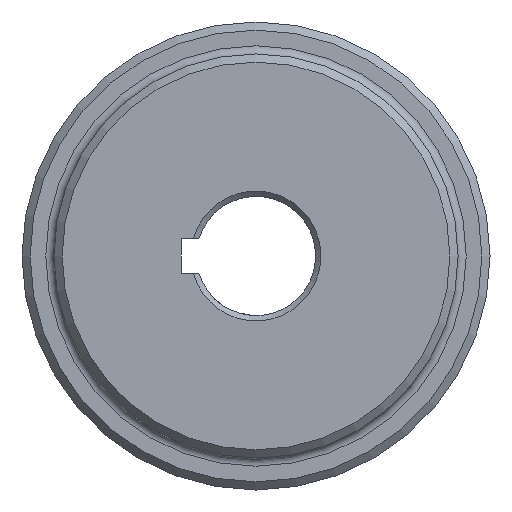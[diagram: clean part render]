
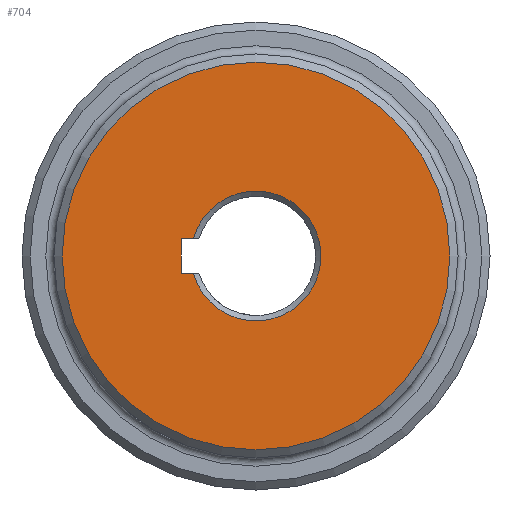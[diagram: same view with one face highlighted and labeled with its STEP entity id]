
A CAD part, left-side view. The second image highlights one B-rep face of the part: STEP entity #704.
In plain terms, the highlighted planar face has unit normal (-1, 0, 0).
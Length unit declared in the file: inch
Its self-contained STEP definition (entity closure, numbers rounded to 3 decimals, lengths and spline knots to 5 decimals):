
#72 = CARTESIAN_POINT ( 'NONE',  ( 0., 0.55035, -0.125 ) ) ;
#112 = EDGE_LOOP ( 'NONE', ( #1312 ) ) ;
#180 = VERTEX_POINT ( 'NONE', #1388 ) ;
#198 = FACE_OUTER_BOUND ( 'NONE', #112, .T. ) ;
#235 = CARTESIAN_POINT ( 'NONE',  ( 0., 0.55035, -0.125 ) ) ;
#292 = ORIENTED_EDGE ( 'NONE', *, *, #1488, .F. ) ;
#371 = FACE_BOUND ( 'NONE', #678, .T. ) ;
#374 = CARTESIAN_POINT ( 'NONE',  ( 0., 0., -0.125 ) ) ;
#384 = ORIENTED_EDGE ( 'NONE', *, *, #1910, .F. ) ;
#507 = CARTESIAN_POINT ( 'NONE',  ( 0., 0., 0. ) ) ;
#521 = EDGE_CURVE ( 'NONE', #180, #180, #1723, .T. ) ;
#591 = DIRECTION ( 'NONE',  ( 1., 0., 0. ) ) ;
#606 = CARTESIAN_POINT ( 'NONE',  ( 0., 0.55035, 0.125 ) ) ;
#628 = CARTESIAN_POINT ( 'NONE',  ( 0., 0., 0. ) ) ;
#678 = EDGE_LOOP ( 'NONE', ( #384, #2103, #292, #1120 ) ) ;
#704 = ADVANCED_FACE ( 'NONE', ( #198, #371 ), #956, .F. ) ;
#721 = VECTOR ( 'NONE', #965, 39.37008 ) ;
#870 = VERTEX_POINT ( 'NONE', #606 ) ;
#925 = CIRCLE ( 'NONE', #1942, 0.47765 ) ;
#940 = VERTEX_POINT ( 'NONE', #1263 ) ;
#956 = PLANE ( 'NONE',  #1459 ) ;
#965 = DIRECTION ( 'NONE',  ( 0., 0., -1. ) ) ;
#1008 = VERTEX_POINT ( 'NONE', #1713 ) ;
#1120 = ORIENTED_EDGE ( 'NONE', *, *, #1527, .F. ) ;
#1173 = VECTOR ( 'NONE', #1350, 39.37008 ) ;
#1198 = DIRECTION ( 'NONE',  ( 0., 0., -1. ) ) ;
#1215 = EDGE_CURVE ( 'NONE', #1008, #940, #925, .T. ) ;
#1233 = LINE ( 'NONE', #374, #1670 ) ;
#1263 = CARTESIAN_POINT ( 'NONE',  ( 0., 0.461, -0.125 ) ) ;
#1304 = DIRECTION ( 'NONE',  ( 0., 0., -1. ) ) ;
#1312 = ORIENTED_EDGE ( 'NONE', *, *, #521, .T. ) ;
#1350 = DIRECTION ( 'NONE',  ( 0., 1., 0. ) ) ;
#1388 = CARTESIAN_POINT ( 'NONE',  ( 0., 0., -1.425 ) ) ;
#1456 = CARTESIAN_POINT ( 'NONE',  ( 0., 0., 0.125 ) ) ;
#1459 = AXIS2_PLACEMENT_3D ( 'NONE', #507, #1899, #1304 ) ;
#1481 = CARTESIAN_POINT ( 'NONE',  ( 0., 0., 0. ) ) ;
#1485 = DIRECTION ( 'NONE',  ( 0., -1., 0. ) ) ;
#1488 = EDGE_CURVE ( 'NONE', #2015, #940, #1233, .T. ) ;
#1527 = EDGE_CURVE ( 'NONE', #870, #2015, #1904, .T. ) ;
#1670 = VECTOR ( 'NONE', #1485, 39.37008 ) ;
#1713 = CARTESIAN_POINT ( 'NONE',  ( 0., 0.461, 0.125 ) ) ;
#1723 = CIRCLE ( 'NONE', #1958, 1.425 ) ;
#1818 = DIRECTION ( 'NONE',  ( -1., 0., 0. ) ) ;
#1899 = DIRECTION ( 'NONE',  ( 1., 0., 0. ) ) ;
#1904 = LINE ( 'NONE', #235, #721 ) ;
#1910 = EDGE_CURVE ( 'NONE', #1008, #870, #2164, .T. ) ;
#1942 = AXIS2_PLACEMENT_3D ( 'NONE', #628, #591, #2125 ) ;
#1958 = AXIS2_PLACEMENT_3D ( 'NONE', #1481, #1818, #1198 ) ;
#2015 = VERTEX_POINT ( 'NONE', #72 ) ;
#2103 = ORIENTED_EDGE ( 'NONE', *, *, #1215, .T. ) ;
#2125 = DIRECTION ( 'NONE',  ( 0., 0., -1. ) ) ;
#2164 = LINE ( 'NONE', #1456, #1173 ) ;
